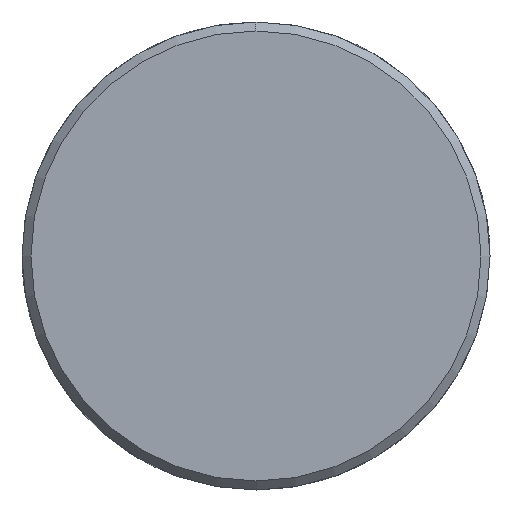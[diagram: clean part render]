
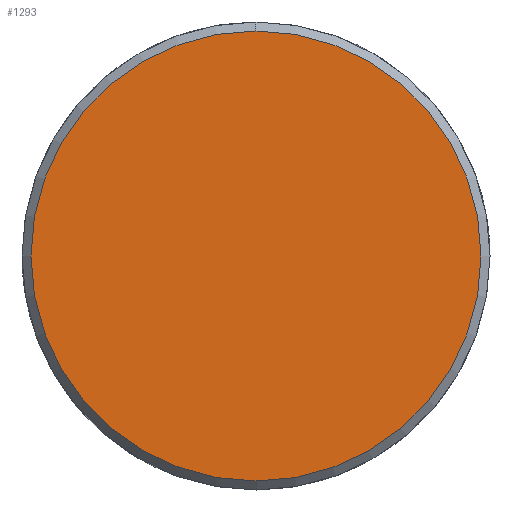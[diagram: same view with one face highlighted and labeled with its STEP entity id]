
A CAD part, left-side view. The second image highlights one B-rep face of the part: STEP entity #1293.
In plain terms, the highlighted planar face has unit normal (-1, 0, 0).
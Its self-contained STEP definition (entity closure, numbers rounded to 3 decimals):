
#1225=CARTESIAN_POINT('Vertex',(-8.,0.,-25.)) ;
#1228=CARTESIAN_POINT('Axis2P3D Location',(-8.,0.,0.)) ;
#1232=CARTESIAN_POINT('Vertex',(-8.,25.,0.)) ;
#1235=CARTESIAN_POINT('Axis2P3D Location',(-8.,0.,0.)) ;
#1239=CARTESIAN_POINT('Vertex',(-8.,0.,25.)) ;
#1261=CARTESIAN_POINT('Axis2P3D Location',(-8.,0.,0.)) ;
#1265=CARTESIAN_POINT('Vertex',(-8.,-25.,0.)) ;
#1268=CARTESIAN_POINT('Axis2P3D Location',(-8.,0.,0.)) ;
#1282=CARTESIAN_POINT('Axis2P3D Location',(-8.,0.,0.)) ;
#1229=DIRECTION('Axis2P3D Direction',(1.,0.,-0.)) ;
#1236=DIRECTION('Axis2P3D Direction',(1.,0.,-0.)) ;
#1262=DIRECTION('Axis2P3D Direction',(1.,0.,-0.)) ;
#1269=DIRECTION('Axis2P3D Direction',(1.,0.,-0.)) ;
#1283=DIRECTION('Axis2P3D Direction',(1.,0.,-0.)) ;
#1284=DIRECTION('Axis2P3D XDirection',(-0.,0.,-1.)) ;
#1230=AXIS2_PLACEMENT_3D('Circle Axis2P3D',#1228,#1229,$) ;
#1237=AXIS2_PLACEMENT_3D('Circle Axis2P3D',#1235,#1236,$) ;
#1263=AXIS2_PLACEMENT_3D('Circle Axis2P3D',#1261,#1262,$) ;
#1270=AXIS2_PLACEMENT_3D('Circle Axis2P3D',#1268,#1269,$) ;
#1285=AXIS2_PLACEMENT_3D('Plane Axis2P3D',#1282,#1283,#1284) ;
#1288=ORIENTED_EDGE('',*,*,#1234,.F.) ;
#1289=ORIENTED_EDGE('',*,*,#1272,.F.) ;
#1290=ORIENTED_EDGE('',*,*,#1267,.F.) ;
#1291=ORIENTED_EDGE('',*,*,#1241,.F.) ;
#1293=ADVANCED_FACE('351-40X76X160',(#1292),#1286,.F.) ;
#1231=CIRCLE('generated circle',#1230,25.) ;
#1238=CIRCLE('generated circle',#1237,25.) ;
#1264=CIRCLE('generated circle',#1263,25.) ;
#1271=CIRCLE('generated circle',#1270,25.) ;
#1234=EDGE_CURVE('',#1226,#1233,#1231,.T.) ;
#1241=EDGE_CURVE('',#1233,#1240,#1238,.T.) ;
#1267=EDGE_CURVE('',#1240,#1266,#1264,.T.) ;
#1272=EDGE_CURVE('',#1266,#1226,#1271,.T.) ;
#1287=EDGE_LOOP('',(#1288,#1289,#1290,#1291)) ;
#1292=FACE_OUTER_BOUND('',#1287,.T.) ;
#1286=PLANE('Plane',#1285) ;
#1226=VERTEX_POINT('',#1225) ;
#1233=VERTEX_POINT('',#1232) ;
#1240=VERTEX_POINT('',#1239) ;
#1266=VERTEX_POINT('',#1265) ;
